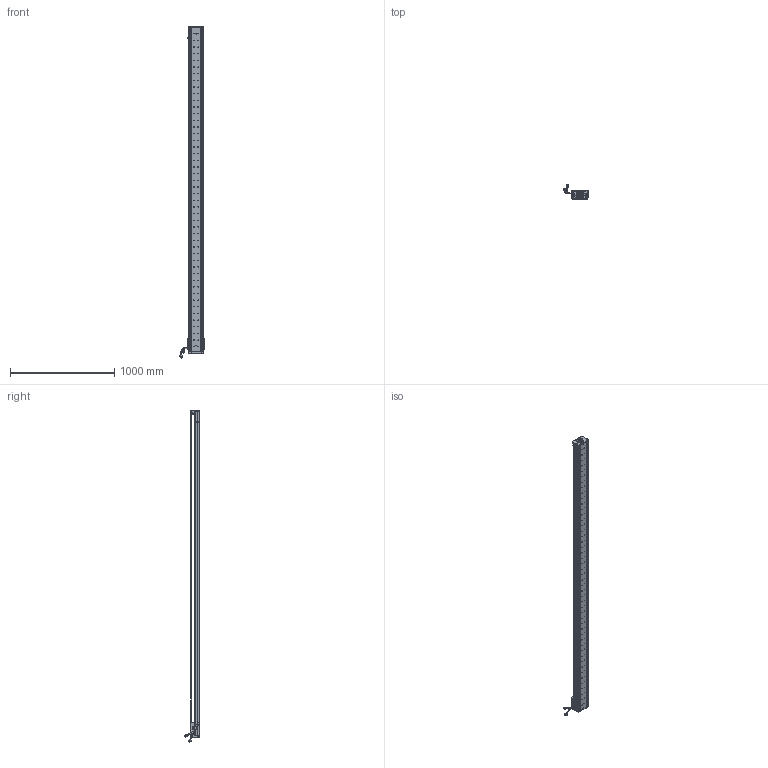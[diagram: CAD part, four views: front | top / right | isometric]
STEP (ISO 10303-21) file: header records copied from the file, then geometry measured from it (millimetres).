
FILE_DESCRIPTION (( 'STEP AP203' ), '1' );
FILE_NAME ('Z1-RY140D-1-L500-B-K.SLDASM_2950.step', '2021-05-17T07:37:21', ( '盈信电脑' ), ( '东莞市道滘镇水果街19号' ), 'SwSTEP 2.0', 'SolidWorks 2016', '' );
FILE_SCHEMA (( 'CONFIG_CONTROL_DESIGN' ));
Length unit declared in the file: millimetre
Products named in the file (36): 080黍杅芛假蚾釱21遴; SCREW-M1.6-3; Z-RY140詩湍狟揤裔; COVER-Part-1; HARNESS; PBU_SHEET; SCREW-M1.6-2; Z1-RY140圉猾敕臏賑輸(21遴); Z-140詩湍傷裔啣; SCALE-Part-2; Z-RY140詩湍奻揤裔; SHIELDPLATE; SCALE-Part-1; Z1-RY140-L500詩湍100mm遵_2950; LABEL; Z1-RY140D-1-L500-B-K.SLDASM_2950; PSLH080_PSLF2; SCREW-M1.6; LABEL-Part-1; HOLDER0; Z1-RY140-L500直线电机模组底座_2950; SCREW-M1.6-1; SCREW-M1.7-1; SCALE; SEAL; SCREW-M1.7; Z-RY140感应器672光电感应片; COVER; HARNESS-Part-1; 140蚥薯蝶輸; 140雄赽晤鎢ん堤盄; 140-Z-臏賑輸盄裔(21遴); 榋妏寠巭燃_暯_M2_2; HARNESS-Part-2; 覜茼ん672; SEAL-Part-1
Assembly tree (41 placements, depth 4):
  Z1-RY140D-1-L500-B-K.SLDASM_2950
    Z1-RY140-L500直线电机模组底座_2950
    Z-RY140感应器672光电感应片
    Z1-RY140圉猾敕臏賑輸(21遴)
    覜茼ん672  x3
    Z1-RY140-L500詩湍100mm遵_2950
    PSLH080_PSLF2
      SCALE
        SCALE-Part-1
        SCALE-Part-2
      HARNESS
        HARNESS-Part-1
        HARNESS-Part-2
      LABEL
        LABEL-Part-1
      COVER
        COVER-Part-1
      SEAL
        SEAL-Part-1
      榋妏寠巭燃_暯_M2_2
      SHIELDPLATE
      SCREW-M1.7
      SCREW-M1.7-1
      PBU_SHEET
      SCREW-M1.6
      SCREW-M1.6-1
      SCREW-M1.6-2
      SCREW-M1.6-3
      HOLDER0
    080黍杅芛假蚾釱21遴
    140-Z-臏賑輸盄裔(21遴)
    Z-140詩湍傷裔啣  x2
    Z-RY140詩湍狟揤裔  x2
    Z-RY140詩湍奻揤裔  x2
    140蚥薯蝶輸  x2
    140雄赽晤鎢ん堤盄
Bounding box: 239.79 x 143.88 x 3190.87 mm (x, y, z)
Volume: 9635249.4 mm3; surface area: 2552217.8 mm2
Topology: 36 solids, 36 shells, 4396 faces, 12062 edges, 7651 vertices
Faces by surface type: cylinder 2438, plane 1430, cone 406, torus 69, bspline 53
Entity records: 141998 total; most frequent: CARTESIAN_POINT 41265, ORIENTED_EDGE 21004, DIRECTION 19062, EDGE_CURVE 10502, AXIS2_PLACEMENT_3D 7080, VERTEX_POINT 6819, VECTOR 4902, LINE 4902
